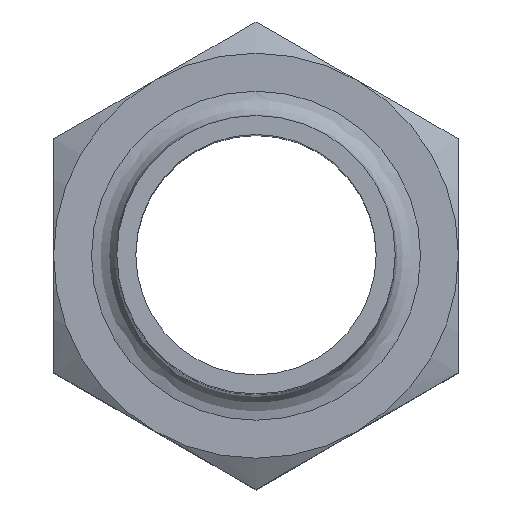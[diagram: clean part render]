
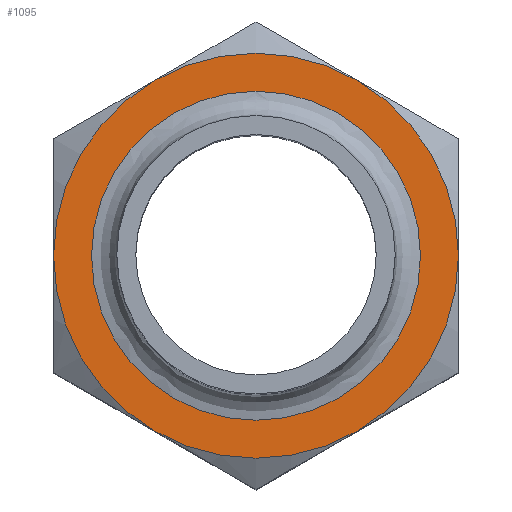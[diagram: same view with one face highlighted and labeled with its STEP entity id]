
A CAD part, top view. The second image highlights one B-rep face of the part: STEP entity #1095.
In plain terms, the highlighted planar face has unit normal (0, 0, 1).
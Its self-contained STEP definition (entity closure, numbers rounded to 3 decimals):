
#552=CARTESIAN_POINT('',(13.856,8.,22.));
#553=VERTEX_POINT('',#552);
#567=CARTESIAN_POINT('',(0.,16.,22.));
#568=VERTEX_POINT('',#567);
#582=CARTESIAN_POINT('',(0.0,0.0,22.));
#583=DIRECTION('',(0.0,0.0,1.0));
#584=DIRECTION('',(0.0,-1.0,0.0));
#585=AXIS2_PLACEMENT_3D('',#582,#583,#584);
#586=CIRCLE('',#585,16.);
#587=EDGE_CURVE('',#553,#568,#586,.T.);
#599=CARTESIAN_POINT('',(13.856,-8.,22.));
#600=VERTEX_POINT('',#599);
#627=CARTESIAN_POINT('',(0.0,0.0,22.));
#628=DIRECTION('',(0.0,0.0,1.0));
#629=DIRECTION('',(0.0,-1.0,0.0));
#630=AXIS2_PLACEMENT_3D('',#627,#628,#629);
#631=CIRCLE('',#630,16.);
#632=EDGE_CURVE('',#600,#553,#631,.T.);
#644=CARTESIAN_POINT('',(0.0,-16.,22.));
#645=VERTEX_POINT('',#644);
#672=CARTESIAN_POINT('',(0.0,0.0,22.));
#673=DIRECTION('',(0.0,0.0,1.0));
#674=DIRECTION('',(0.0,-1.0,0.0));
#675=AXIS2_PLACEMENT_3D('',#672,#673,#674);
#676=CIRCLE('',#675,16.);
#677=EDGE_CURVE('',#645,#600,#676,.T.);
#702=CARTESIAN_POINT('',(-13.856,-8.,22.));
#703=VERTEX_POINT('',#702);
#704=CARTESIAN_POINT('',(0.0,0.0,22.));
#705=DIRECTION('',(0.0,0.0,1.0));
#706=DIRECTION('',(0.0,-1.0,0.0));
#707=AXIS2_PLACEMENT_3D('',#704,#705,#706);
#708=CIRCLE('',#707,16.);
#709=EDGE_CURVE('',#703,#645,#708,.T.);
#747=CARTESIAN_POINT('',(-13.856,8.,22.));
#748=VERTEX_POINT('',#747);
#749=CARTESIAN_POINT('',(0.0,0.0,22.));
#750=DIRECTION('',(0.0,0.0,1.0));
#751=DIRECTION('',(0.0,-1.0,0.0));
#752=AXIS2_PLACEMENT_3D('',#749,#750,#751);
#753=CIRCLE('',#752,16.);
#754=EDGE_CURVE('',#748,#703,#753,.T.);
#792=CARTESIAN_POINT('',(0.0,0.0,22.));
#793=DIRECTION('',(0.0,0.0,1.0));
#794=DIRECTION('',(0.0,-1.0,0.0));
#795=AXIS2_PLACEMENT_3D('',#792,#793,#794);
#796=CIRCLE('',#795,16.);
#797=EDGE_CURVE('',#568,#748,#796,.T.);
#1036=CARTESIAN_POINT('',(13.0,0.,22.));
#1037=VERTEX_POINT('',#1036);
#1038=CARTESIAN_POINT('',(0.,0.,22.));
#1039=DIRECTION('',(0.0,0.0,1.0));
#1040=DIRECTION('',(-1.0,0.0,0.0));
#1041=AXIS2_PLACEMENT_3D('',#1038,#1039,#1040);
#1042=CIRCLE('',#1041,13.0);
#1043=EDGE_CURVE('',#1037,#1037,#1042,.T.);
#1079=CARTESIAN_POINT('',(0.,0.,22.));
#1080=DIRECTION('',(0.0,0.0,1.0));
#1081=DIRECTION('',(1.0,0.0,0.0));
#1082=AXIS2_PLACEMENT_3D('',#1079,#1080,#1081);
#1083=PLANE('',#1082);
#1084=ORIENTED_EDGE('',*,*,#797,.T.);
#1085=ORIENTED_EDGE('',*,*,#754,.T.);
#1086=ORIENTED_EDGE('',*,*,#709,.T.);
#1087=ORIENTED_EDGE('',*,*,#677,.T.);
#1088=ORIENTED_EDGE('',*,*,#632,.T.);
#1089=ORIENTED_EDGE('',*,*,#587,.T.);
#1090=EDGE_LOOP('',(#1084,#1085,#1086,#1087,#1088,#1089));
#1091=FACE_OUTER_BOUND('',#1090,.T.);
#1092=ORIENTED_EDGE('',*,*,#1043,.F.);
#1093=EDGE_LOOP('',(#1092));
#1094=FACE_BOUND('',#1093,.T.);
#1095=ADVANCED_FACE('',(#1091,#1094),#1083,.T.);
